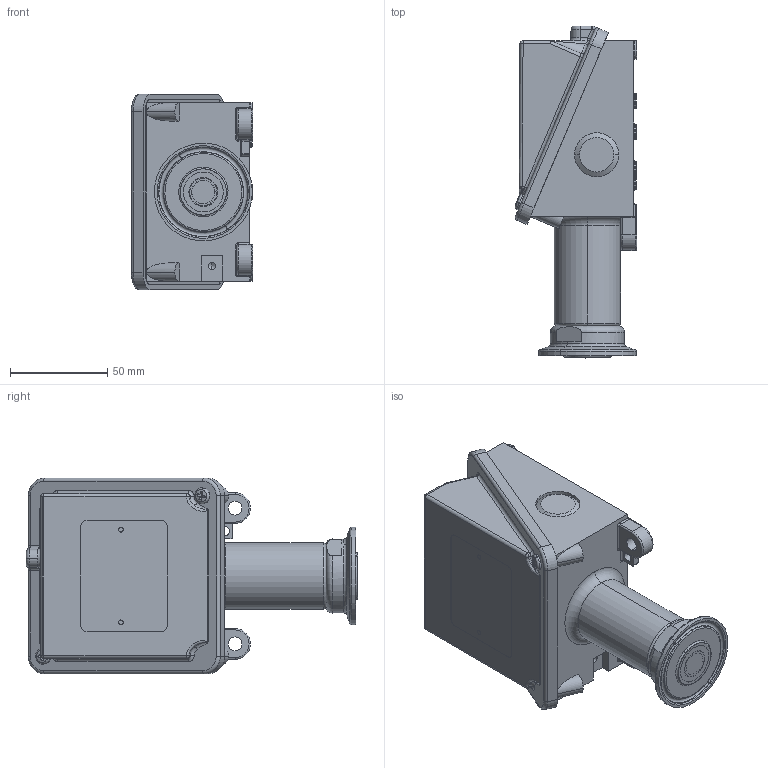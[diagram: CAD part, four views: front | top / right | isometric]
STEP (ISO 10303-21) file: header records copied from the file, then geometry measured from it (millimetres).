
FILE_DESCRIPTION (( 'STEP AP214' ), '1' );
FILE_NAME ('H100-565_567_V2.STEP', '2025-02-21T20:13:30', ( '' ), ( '' ), 'SwSTEP 2.0', 'SolidWorks 2023', '' );
FILE_SCHEMA (( 'AUTOMOTIVE_DESIGN' ));
Length unit declared in the file: inch
Products named in the file (1): H100-565_567_V2
Bounding box: 62.62 x 170.89 x 100.84 mm (x, y, z)
Volume: 203679.3 mm3; surface area: 118446.3 mm2
Topology: 8 solids, 8 shells, 852 faces, 2001 edges, 1177 vertices
Faces by surface type: cylinder 356, plane 245, torus 127, cone 52, bspline 36, sphere 36
Entity records: 25638 total; most frequent: CARTESIAN_POINT 5965, DIRECTION 4414, ORIENTED_EDGE 3914, EDGE_CURVE 1957, AXIS2_PLACEMENT_3D 1768, VERTEX_POINT 1177, CIRCLE 951, EDGE_LOOP 932
